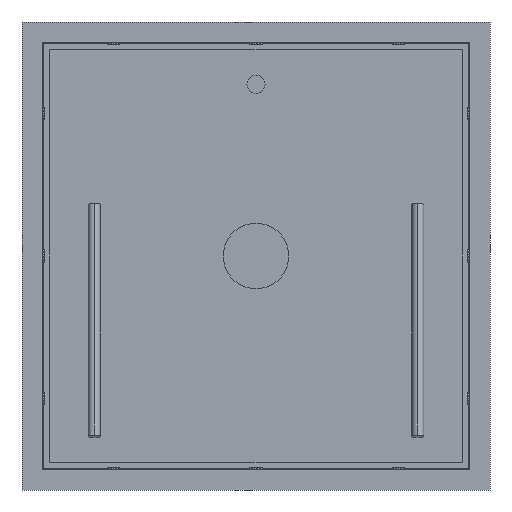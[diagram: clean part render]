
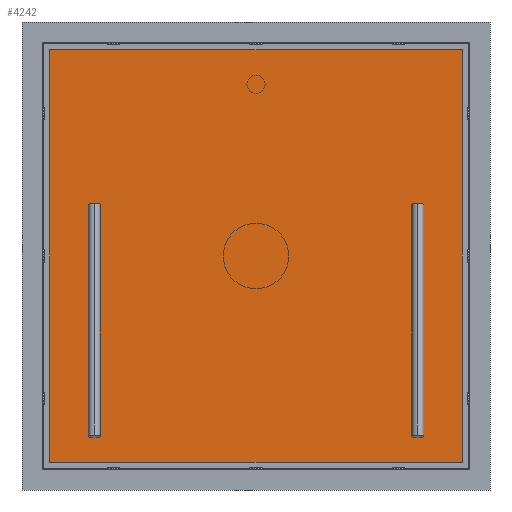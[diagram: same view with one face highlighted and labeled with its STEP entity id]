
A CAD part, front view. The second image highlights one B-rep face of the part: STEP entity #4242.
In plain terms, the highlighted planar face has unit normal (0, -1, 0).
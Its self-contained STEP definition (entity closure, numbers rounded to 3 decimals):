
#3854=DIRECTION('',(0.,0.,-1.));
#3855=VECTOR('',#3854,1048.);
#3856=CARTESIAN_POINT('',(524.,79.,515.));
#3857=LINE('',#3856,#3855);
#3862=DIRECTION('',(-1.,0.,0.));
#3863=VECTOR('',#3862,1048.);
#3864=CARTESIAN_POINT('',(524.,79.,-533.));
#3865=LINE('',#3864,#3863);
#3870=DIRECTION('',(0.,0.,1.));
#3871=VECTOR('',#3870,1048.);
#3872=CARTESIAN_POINT('',(-524.,79.,-533.));
#3873=LINE('',#3872,#3871);
#3878=DIRECTION('',(1.,0.,0.));
#3879=VECTOR('',#3878,1048.);
#3880=CARTESIAN_POINT('',(-524.,79.,515.));
#3881=LINE('',#3880,#3879);
#4027=CARTESIAN_POINT('',(524.,79.,515.));
#4028=CARTESIAN_POINT('',(524.,79.,-533.));
#4029=VERTEX_POINT('',#4027);
#4030=VERTEX_POINT('',#4028);
#4031=CARTESIAN_POINT('',(-524.,79.,-533.));
#4032=VERTEX_POINT('',#4031);
#4033=CARTESIAN_POINT('',(-524.,79.,515.));
#4034=VERTEX_POINT('',#4033);
#4228=CARTESIAN_POINT('',(0.,79.,0.));
#4229=DIRECTION('',(0.,1.,0.));
#4230=DIRECTION('',(0.,0.,-1.));
#4231=AXIS2_PLACEMENT_3D('',#4228,#4229,#4230);
#4232=PLANE('',#4231);
#4233=ORIENTED_EDGE('',*,*,#4218,.T.);
#4235=ORIENTED_EDGE('',*,*,#4234,.T.);
#4237=ORIENTED_EDGE('',*,*,#4236,.T.);
#4239=ORIENTED_EDGE('',*,*,#4238,.T.);
#4240=EDGE_LOOP('',(#4233,#4235,#4237,#4239));
#4241=FACE_OUTER_BOUND('',#4240,.F.);
#4218=EDGE_CURVE('',#4029,#4030,#3857,.T.);
#4234=EDGE_CURVE('',#4030,#4032,#3865,.T.);
#4236=EDGE_CURVE('',#4032,#4034,#3873,.T.);
#4238=EDGE_CURVE('',#4034,#4029,#3881,.T.);
#4242=ADVANCED_FACE('',(#4241),#4232,.F.);
